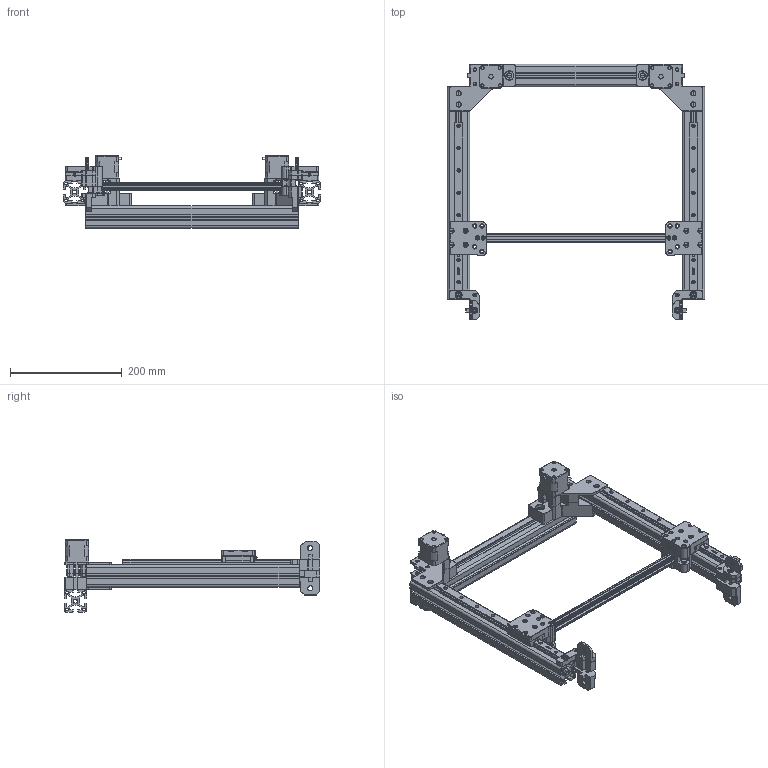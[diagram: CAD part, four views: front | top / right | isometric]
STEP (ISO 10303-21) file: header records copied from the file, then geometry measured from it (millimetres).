
FILE_DESCRIPTION(/* description */ ('STEP AP242','CAx-IF Rec.Pracs.---Representation and Presentation of Product Manufacturing Information (PMI)---4.0---2014-10-13','CAx-IF Rec.Pracs.---3D Tessellated Geometry---0.4---2014-09-14','2;1'),/* implementation_level */ '2;1');
FILE_NAME(/* name */ '682930699a237b661d805155',/* time_stamp */ '2025-05-18T00:57:15Z',/* author */ (''),/* organization */ (''),/* preprocessor_version */ 'ST-DEVELOPER v20',/* originating_system */ 'ONSHAPE BY PTC INC, 1.198',/* authorisation */ ' ');
FILE_SCHEMA (('AP242_MANAGED_MODEL_BASED_3D_ENGINEERING_MIM_LF { 1 0 10303 442 1 1 4 }'));
Products named in the file (30): Motion; AB left top; motor-40mm; AB left bottom; y-carrier-top-right; y-carrier-top-left; Y; X 1515; AB right top; y-carrier-bottom-right; AB right bottom; End Idlers <1>; left-idler-top; left-idler-bottom; left-idler-mid; right-idler-top; y-carrier-bottom-left; X; MGN 15 <1>; ????^1737369433673; rail; MGN 15 <2>
Assembly tree (39 placements, depth 3):
  Motion
    AB left top
    motor-40mm  x2
    AB left bottom
    y-carrier-top-right
    y-carrier-top-left
    Y  x2
    X 1515
    AB right top
    y-carrier-bottom-right
    AB right bottom
    End Idlers <1>
      left-idler-top
      left-idler-bottom
      left-idler-mid
      right-idler-top
      left-idler-mid
      left-idler-bottom
    y-carrier-bottom-left
    X
    MGN 15 <1>
      ????^1737369433673
      ????^1737369433673
      ????^1737369433673
      rail
      ????^1737369433673
      ????^1737369433673
      ????^1737369433673
      ????^1737369433673
    MGN 15 <2>
      ????^1737369433673
      ????^1737369433673
      ????^1737369433673
      ????^1737369433673
      ????^1737369433673
      ????^1737369433673
      rail
      ????^1737369433673
Bounding box: 460 x 457 x 130 mm (x, y, z)
Volume: 1704264.6 mm3; surface area: 773641.3 mm2
Topology: 36 solids, 36 shells, 3523 faces, 9028 edges, 5657 vertices
Faces by surface type: plane 2247, cylinder 773, cone 341, bspline 84, sphere 59, torus 19
Full cylindrical faces by diameter (mm): 1.5 x8, 2.459 x8, 2.9 x10, 3 x20, 3.2 x8, 3.3 x1, 3.4 x18, 3.5 x16, 4 x16, 4.2 x6, 4.4 x2, 4.5 x4, 4.8 x2, 5 x14, 5.05 x18, 5.4 x10, 6 x26, 6.4 x2, 6.5 x18, 7 x2, 8 x14, 8.4 x14, 10 x2, 11.4 x2, 12 x2, 16 x2, 22 x2, 22.4 x2, 33 x2
Entity records: 88629 total; most frequent: CARTESIAN_POINT 16183, DIRECTION 14350, ORIENTED_EDGE 14068, EDGE_CURVE 7034, LINE 5296, VECTOR 5296, VERTEX_POINT 4650, AXIS2_PLACEMENT_3D 4527
